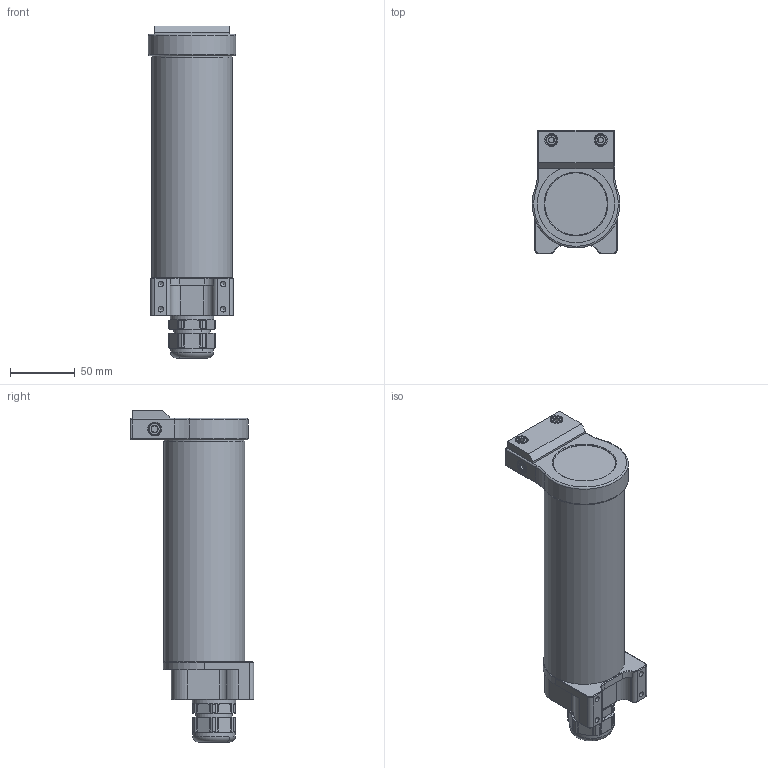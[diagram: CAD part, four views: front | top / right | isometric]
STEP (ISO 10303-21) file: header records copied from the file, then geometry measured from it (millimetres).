
FILE_DESCRIPTION (( 'STEP AP203' ), '1' );
FILE_NAME ('24C-DS.STEP', '2023-01-16T19:44:38', ( '' ), ( '' ), 'SwSTEP 2.0', 'SolidWorks 2021', '' );
FILE_SCHEMA (( 'CONFIG_CONTROL_DESIGN' ));
Length unit declared in the file: inch
Products named in the file (18): PG21-S01; 24C-DS; 200395; 91292A124_91292A124; 4452K541; 500031; 200317; 200428; 200393; 91292A108_91292A108; 400119; PG21-01-01-01-03; 400118; 9452K141_Expanded; PG21-I01; 200394; PG21-N03; PG21-B01
Assembly tree (22 placements, depth 3):
  24C-DS
    200317
    200393
    200394
    200395
    200428
    400118
    400119
    500031
    4452K541  x3
    9452K141_Expanded
    91292A108_91292A108  x3
    PG21-01-01-01-03
      PG21-B01
      PG21-I01
      PG21-S01
      PG21-N03
    91292A124_91292A124  x2
Bounding box: 67.82 x 95.12 x 256.2 mm (x, y, z)
Volume: 238796.9 mm3; surface area: 155563.2 mm2
Topology: 22 solids, 22 shells, 848 faces, 2203 edges, 1419 vertices
Faces by surface type: plane 324, cylinder 315, cone 175, bspline 19, torus 11, sphere 4
Full cylindrical faces by diameter (mm): 3.3 x4, 4.2 x6, 4.216 x3, 5.5 x2, 5.8 x2, 7 x3, 8.5 x2, 9.065 x3, 10 x2, 20.5 x2, 22.75 x1, 23.65 x1, 26.75 x1, 28.3 x2, 29.3 x1, 33.5 x1, 48.26 x2, 55.486 x1, 57.15 x1, 58.166 x1, 59.182 x1, 59.436 x1, 59.69 x2, 59.842 x1, 59.944 x1, 61.976 x1, 62.23 x1, 62.992 x1, 64.77 x1, 65.024 x1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
Entity records: 29285 total; most frequent: CARTESIAN_POINT 9794, DIRECTION 3683, ORIENTED_EDGE 3540, EDGE_CURVE 1770, AXIS2_PLACEMENT_3D 1455, VERTEX_POINT 1174, EDGE_LOOP 886, FACE_OUTER_BOUND 776
